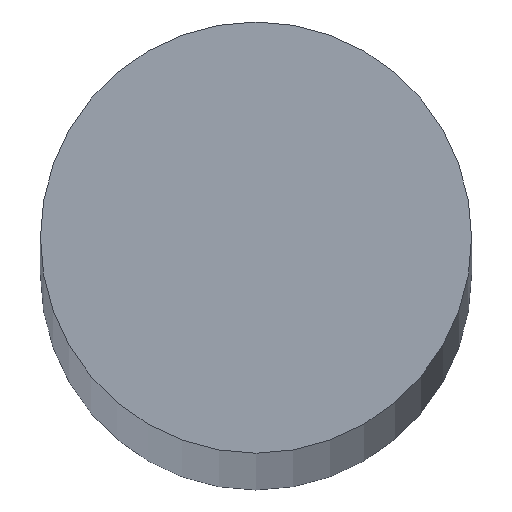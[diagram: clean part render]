
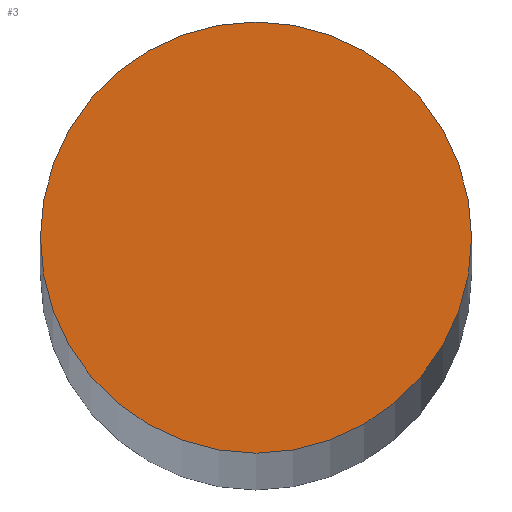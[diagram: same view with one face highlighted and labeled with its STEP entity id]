
A CAD part, top view. The second image highlights one B-rep face of the part: STEP entity #3.
In plain terms, the highlighted planar face has unit normal (0, 0, 1).
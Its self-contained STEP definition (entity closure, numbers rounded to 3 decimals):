
#3 = ADVANCED_FACE ( 'NONE', ( #31 ), #78, .T. ) ;
#9 = EDGE_CURVE ( 'NONE', #80, #83, #58, .T. ) ;
#11 = AXIS2_PLACEMENT_3D ( 'NONE', #105, #107, #108 ) ;
#12 = AXIS2_PLACEMENT_3D ( 'NONE', #86, #90, #91 ) ;
#16 = EDGE_CURVE ( 'NONE', #83, #80, #60, .T. ) ;
#23 = AXIS2_PLACEMENT_3D ( 'NONE', #100, #101, #102 ) ;
#31 = FACE_OUTER_BOUND ( 'NONE', #39, .T. ) ;
#39 = EDGE_LOOP ( 'NONE', ( #43, #47 ) ) ;
#43 = ORIENTED_EDGE ( 'NONE', *, *, #16, .T. ) ;
#47 = ORIENTED_EDGE ( 'NONE', *, *, #9, .T. ) ;
#58 = CIRCLE ( 'NONE', #23, 6. ) ;
#60 = CIRCLE ( 'NONE', #11, 6. ) ;
#78 = PLANE ( 'NONE',  #12 ) ;
#80 = VERTEX_POINT ( 'NONE', #106 ) ;
#83 = VERTEX_POINT ( 'NONE', #116 ) ;
#86 = CARTESIAN_POINT ( 'NONE',  ( 0., 0., 293.5 ) ) ;
#90 = DIRECTION ( 'NONE',  ( 0., 0., 1. ) ) ;
#91 = DIRECTION ( 'NONE',  ( 1., 0., 0. ) ) ;
#100 = CARTESIAN_POINT ( 'NONE',  ( 0., 0., 293.5 ) ) ;
#101 = DIRECTION ( 'NONE',  ( 0., 0., 1. ) ) ;
#102 = DIRECTION ( 'NONE',  ( 1., 0., 0. ) ) ;
#105 = CARTESIAN_POINT ( 'NONE',  ( 0., 0., 293.5 ) ) ;
#106 = CARTESIAN_POINT ( 'NONE',  ( 6., 0., 293.5 ) ) ;
#107 = DIRECTION ( 'NONE',  ( 0., 0., 1. ) ) ;
#108 = DIRECTION ( 'NONE',  ( 1., 0., 0. ) ) ;
#116 = CARTESIAN_POINT ( 'NONE',  ( -6., 0., 293.5 ) ) ;
